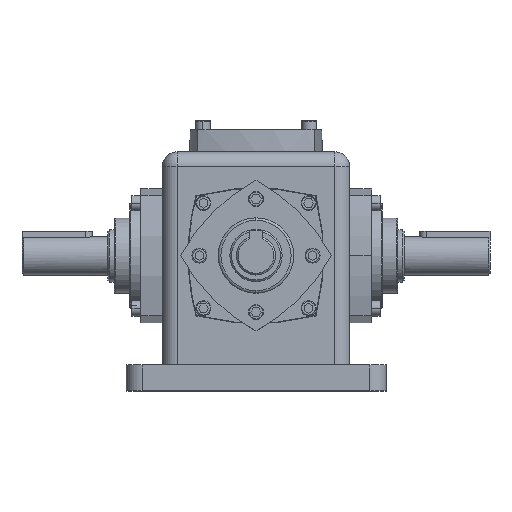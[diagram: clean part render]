
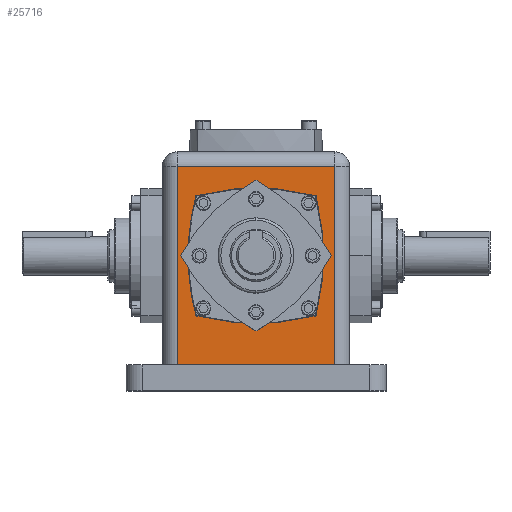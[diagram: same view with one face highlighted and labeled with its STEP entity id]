
A CAD part, top view. The second image highlights one B-rep face of the part: STEP entity #25716.
In plain terms, the highlighted planar face has unit normal (0, 0, 1).
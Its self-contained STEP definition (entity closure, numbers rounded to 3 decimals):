
#13 = ORIENTED_EDGE ( 'NONE', *, *, #24446, .T. ) ;
#841 = AXIS2_PLACEMENT_3D ( 'NONE', #21749, #1575, #1782 ) ;
#1459 = ORIENTED_EDGE ( 'NONE', *, *, #29100, .T. ) ;
#1575 = DIRECTION ( 'NONE',  ( 0., 0., 1. ) ) ;
#1660 = CARTESIAN_POINT ( 'NONE',  ( 30.286, 34.286, 36. ) ) ;
#1782 = DIRECTION ( 'NONE',  ( 1., 0., 0. ) ) ;
#1825 = CARTESIAN_POINT ( 'NONE',  ( -23.1, 23.1, 36. ) ) ;
#2111 = CARTESIAN_POINT ( 'NONE',  ( -23.1, -23.1, 36. ) ) ;
#2206 = EDGE_CURVE ( 'NONE', #55652, #22406, #9155, .T. ) ;
#3508 = CARTESIAN_POINT ( 'NONE',  ( 23.1, -23.1, 36. ) ) ;
#4092 = VERTEX_POINT ( 'NONE', #1825 ) ;
#4277 = CARTESIAN_POINT ( 'NONE',  ( 64.335, 0., 36. ) ) ;
#4463 = AXIS2_PLACEMENT_3D ( 'NONE', #28500, #38311, #57777 ) ;
#4695 = DIRECTION ( 'NONE',  ( 1., 0., 0. ) ) ;
#5918 = AXIS2_PLACEMENT_3D ( 'NONE', #54042, #9784, #29665 ) ;
#6062 = CIRCLE ( 'NONE', #15847, 90.435 ) ;
#7430 = EDGE_CURVE ( 'NONE', #51258, #37445, #59282, .T. ) ;
#7903 = AXIS2_PLACEMENT_3D ( 'NONE', #53682, #43638, #4695 ) ;
#9155 = CIRCLE ( 'NONE', #5918, 90.435 ) ;
#9274 = CIRCLE ( 'NONE', #20424, 90.435 ) ;
#9656 = CIRCLE ( 'NONE', #4463, 90.435 ) ;
#9784 = DIRECTION ( 'NONE',  ( 0., 0., -1. ) ) ;
#9871 = DIRECTION ( 'NONE',  ( 0., 0., -1. ) ) ;
#9975 = CARTESIAN_POINT ( 'NONE',  ( 30.286, -42., 36. ) ) ;
#12649 = CARTESIAN_POINT ( 'NONE',  ( 30.286, -42., 36. ) ) ;
#12757 = VECTOR ( 'NONE', #45245, 1000. ) ;
#12986 = ORIENTED_EDGE ( 'NONE', *, *, #2206, .T. ) ;
#13025 = LINE ( 'NONE', #9975, #63415 ) ;
#13509 = CIRCLE ( 'NONE', #7903, 90.435 ) ;
#13895 = ORIENTED_EDGE ( 'NONE', *, *, #33653, .T. ) ;
#15847 = AXIS2_PLACEMENT_3D ( 'NONE', #24372, #58544, #34145 ) ;
#18346 = ORIENTED_EDGE ( 'NONE', *, *, #32108, .T. ) ;
#20424 = AXIS2_PLACEMENT_3D ( 'NONE', #4277, #9871, #53916 ) ;
#21145 = EDGE_LOOP ( 'NONE', ( #13, #59551, #18346, #13895, #12986 ) ) ;
#21749 = CARTESIAN_POINT ( 'NONE',  ( -36., -42., 36. ) ) ;
#22406 = VERTEX_POINT ( 'NONE', #3508 ) ;
#24372 = CARTESIAN_POINT ( 'NONE',  ( 0., -64.335, 36. ) ) ;
#24446 = EDGE_CURVE ( 'NONE', #22406, #51073, #9656, .T. ) ;
#25716 = ADVANCED_FACE ( 'NONE', ( #63478, #54321 ), #50969, .T. ) ;
#25740 = LINE ( 'NONE', #40115, #12757 ) ;
#27051 = CARTESIAN_POINT ( 'NONE',  ( 23.1, 23.1, 36. ) ) ;
#28500 = CARTESIAN_POINT ( 'NONE',  ( 0., 64.335, 36. ) ) ;
#29100 = EDGE_CURVE ( 'NONE', #59326, #51258, #42853, .T. ) ;
#29119 = CARTESIAN_POINT ( 'NONE',  ( -30.286, -42., 36. ) ) ;
#29665 = DIRECTION ( 'NONE',  ( 1., 0., 0. ) ) ;
#29682 = VERTEX_POINT ( 'NONE', #1660 ) ;
#29965 = CARTESIAN_POINT ( 'NONE',  ( -30.286, 34.286, 36. ) ) ;
#32108 = EDGE_CURVE ( 'NONE', #60420, #4092, #9274, .T. ) ;
#32485 = CARTESIAN_POINT ( 'NONE',  ( -30.286, -42., 36. ) ) ;
#32894 = VECTOR ( 'NONE', #43044, 1000. ) ;
#33653 = EDGE_CURVE ( 'NONE', #4092, #55652, #6062, .T. ) ;
#34145 = DIRECTION ( 'NONE',  ( 1., 0., 0. ) ) ;
#34384 = CARTESIAN_POINT ( 'NONE',  ( -36., -42., 36. ) ) ;
#34806 = DIRECTION ( 'NONE',  ( 1., 0., 0. ) ) ;
#37445 = VERTEX_POINT ( 'NONE', #12649 ) ;
#38311 = DIRECTION ( 'NONE',  ( 0., 0., -1. ) ) ;
#40115 = CARTESIAN_POINT ( 'NONE',  ( -36., 34.286, 36. ) ) ;
#40753 = EDGE_CURVE ( 'NONE', #37445, #29682, #13025, .T. ) ;
#40925 = CARTESIAN_POINT ( 'NONE',  ( -26.1, 0., 36. ) ) ;
#42631 = DIRECTION ( 'NONE',  ( 0., 1., 0. ) ) ;
#42853 = LINE ( 'NONE', #29119, #32894 ) ;
#43044 = DIRECTION ( 'NONE',  ( 0., -1., 0. ) ) ;
#43638 = DIRECTION ( 'NONE',  ( 0., 0., -1. ) ) ;
#44943 = EDGE_CURVE ( 'NONE', #29682, #59326, #25740, .T. ) ;
#45245 = DIRECTION ( 'NONE',  ( -1., 0., 0. ) ) ;
#45628 = ORIENTED_EDGE ( 'NONE', *, *, #44943, .T. ) ;
#50969 = PLANE ( 'NONE',  #841 ) ;
#51073 = VERTEX_POINT ( 'NONE', #2111 ) ;
#51258 = VERTEX_POINT ( 'NONE', #32485 ) ;
#53460 = ORIENTED_EDGE ( 'NONE', *, *, #40753, .T. ) ;
#53682 = CARTESIAN_POINT ( 'NONE',  ( 64.335, 0., 36. ) ) ;
#53884 = ORIENTED_EDGE ( 'NONE', *, *, #7430, .T. ) ;
#53916 = DIRECTION ( 'NONE',  ( 1., 0., 0. ) ) ;
#54042 = CARTESIAN_POINT ( 'NONE',  ( -64.335, 0., 36. ) ) ;
#54321 = FACE_BOUND ( 'NONE', #21145, .T. ) ;
#55652 = VERTEX_POINT ( 'NONE', #27051 ) ;
#56931 = EDGE_CURVE ( 'NONE', #51073, #60420, #13509, .T. ) ;
#57777 = DIRECTION ( 'NONE',  ( 1., 0., 0. ) ) ;
#58544 = DIRECTION ( 'NONE',  ( 0., 0., -1. ) ) ;
#59282 = LINE ( 'NONE', #34384, #60076 ) ;
#59326 = VERTEX_POINT ( 'NONE', #29965 ) ;
#59551 = ORIENTED_EDGE ( 'NONE', *, *, #56931, .T. ) ;
#60076 = VECTOR ( 'NONE', #34806, 1000. ) ;
#60420 = VERTEX_POINT ( 'NONE', #40925 ) ;
#61059 = EDGE_LOOP ( 'NONE', ( #45628, #1459, #53884, #53460 ) ) ;
#63415 = VECTOR ( 'NONE', #42631, 1000. ) ;
#63478 = FACE_OUTER_BOUND ( 'NONE', #61059, .T. ) ;
